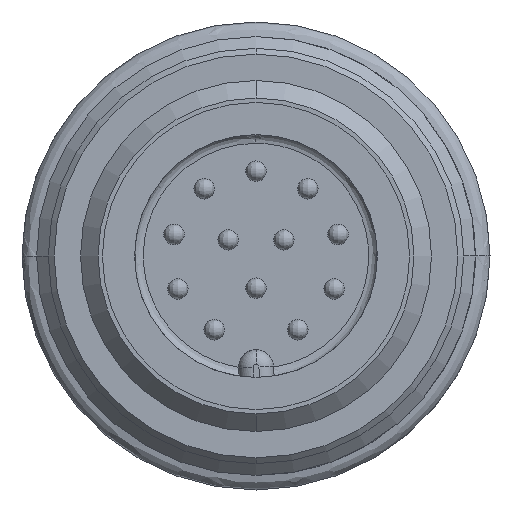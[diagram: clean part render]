
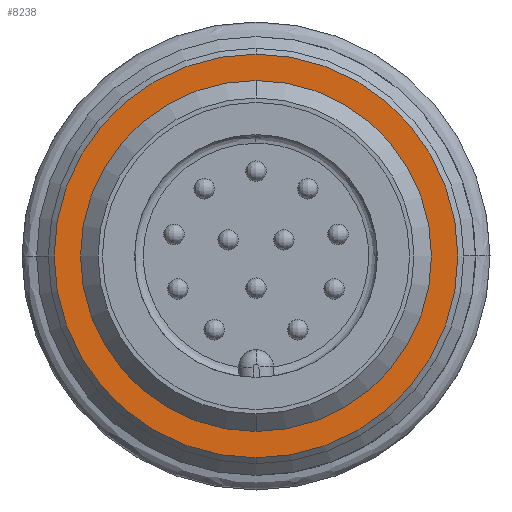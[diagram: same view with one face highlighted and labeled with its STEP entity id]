
A CAD part, front view. The second image highlights one B-rep face of the part: STEP entity #8238.
In plain terms, the highlighted planar face has unit normal (0, -1, 0).
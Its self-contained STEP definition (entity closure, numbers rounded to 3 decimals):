
#200 = DIRECTION ( 'NONE',  ( 0., 0., 1. ) ) ;
#244 = FACE_OUTER_BOUND ( 'NONE', #12807, .T. ) ;
#433 = VERTEX_POINT ( 'NONE', #6738 ) ;
#524 = DIRECTION ( 'NONE',  ( 0., 1., 0. ) ) ;
#1408 = CARTESIAN_POINT ( 'NONE',  ( 0., 8., -6. ) ) ;
#1663 = EDGE_CURVE ( 'NONE', #7705, #2253, #6442, .T. ) ;
#2253 = VERTEX_POINT ( 'NONE', #1408 ) ;
#4284 = FACE_BOUND ( 'NONE', #6921, .T. ) ;
#4715 = CARTESIAN_POINT ( 'NONE',  ( 0., 8., 0. ) ) ;
#4793 = CARTESIAN_POINT ( 'NONE',  ( 0., 8., 6.9 ) ) ;
#5285 = CARTESIAN_POINT ( 'NONE',  ( 4.631, 8., 4.632 ) ) ;
#5534 = AXIS2_PLACEMENT_3D ( 'NONE', #5285, #11209, #7174 ) ;
#5648 = CARTESIAN_POINT ( 'NONE',  ( 0., 8., 0. ) ) ;
#6442 = CIRCLE ( 'NONE', #11690, 6. ) ;
#6547 = DIRECTION ( 'NONE',  ( 0., 0., 1. ) ) ;
#6738 = CARTESIAN_POINT ( 'NONE',  ( 0., 8., -6.9 ) ) ;
#6921 = EDGE_LOOP ( 'NONE', ( #8061, #7531 ) ) ;
#7174 = DIRECTION ( 'NONE',  ( 0., 0., -1. ) ) ;
#7531 = ORIENTED_EDGE ( 'NONE', *, *, #1663, .T. ) ;
#7705 = VERTEX_POINT ( 'NONE', #7856 ) ;
#7762 = EDGE_CURVE ( 'NONE', #2253, #7705, #10487, .T. ) ;
#7856 = CARTESIAN_POINT ( 'NONE',  ( 0., 8., 6. ) ) ;
#8061 = ORIENTED_EDGE ( 'NONE', *, *, #7762, .T. ) ;
#8104 = CIRCLE ( 'NONE', #12067, 6.9 ) ;
#8116 = ORIENTED_EDGE ( 'NONE', *, *, #9355, .F. ) ;
#8238 = ADVANCED_FACE ( 'NONE', ( #4284, #244 ), #9321, .T. ) ;
#8465 = CARTESIAN_POINT ( 'NONE',  ( 0., 8., 0. ) ) ;
#9103 = VERTEX_POINT ( 'NONE', #4793 ) ;
#9321 = PLANE ( 'NONE',  #5534 ) ;
#9355 = EDGE_CURVE ( 'NONE', #433, #9103, #9974, .T. ) ;
#9706 = EDGE_CURVE ( 'NONE', #9103, #433, #8104, .T. ) ;
#9749 = DIRECTION ( 'NONE',  ( 0., 0., -1. ) ) ;
#9782 = AXIS2_PLACEMENT_3D ( 'NONE', #11303, #524, #200 ) ;
#9974 = CIRCLE ( 'NONE', #9782, 6.9 ) ;
#10487 = CIRCLE ( 'NONE', #11514, 6. ) ;
#10621 = DIRECTION ( 'NONE',  ( 0., 1., 0. ) ) ;
#11027 = DIRECTION ( 'NONE',  ( 0., 1., 0. ) ) ;
#11209 = DIRECTION ( 'NONE',  ( 0., -1., 0. ) ) ;
#11303 = CARTESIAN_POINT ( 'NONE',  ( 0., 8., 0. ) ) ;
#11514 = AXIS2_PLACEMENT_3D ( 'NONE', #4715, #11027, #12754 ) ;
#11690 = AXIS2_PLACEMENT_3D ( 'NONE', #5648, #12677, #9749 ) ;
#12067 = AXIS2_PLACEMENT_3D ( 'NONE', #8465, #10621, #6547 ) ;
#12677 = DIRECTION ( 'NONE',  ( 0., 1., 0. ) ) ;
#12679 = ORIENTED_EDGE ( 'NONE', *, *, #9706, .F. ) ;
#12754 = DIRECTION ( 'NONE',  ( 0., 0., -1. ) ) ;
#12807 = EDGE_LOOP ( 'NONE', ( #12679, #8116 ) ) ;
